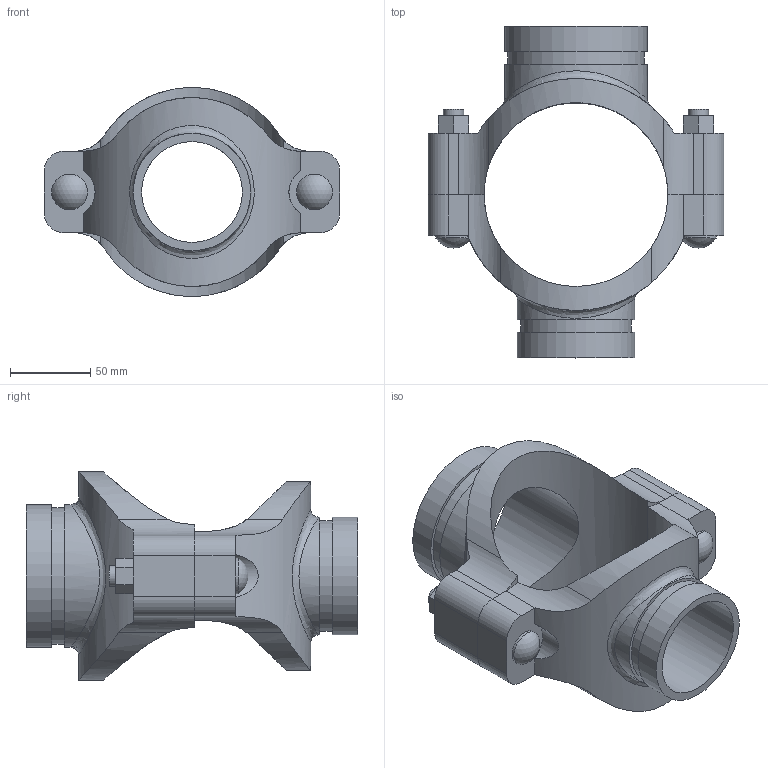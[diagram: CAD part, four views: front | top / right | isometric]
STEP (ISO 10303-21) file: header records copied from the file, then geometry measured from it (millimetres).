
FILE_DESCRIPTION(/* description */ ('VIC MECH-T BRANCH OUTLET CROSS STYLE 920N (GRVD)','CAx-IF Rec.Pracs.---Representation and Presentation of Product Manufacturing Information (PMI)---4.0---2014-10-13'),/* implementation_level */ '2;1');
FILE_NAME(/* name */ 'C:\Users\Vjadhav\AppData\Roaming\Autodesk\ApplicationPlugins\Back Up\Victaulic_IPS_Mechanical-Cross Outlet_Style 920N (OGS)\Victaulic_IPS_Mechanical-Cross Outlet_04.0x03.0x02.5 (100x80x65).stp',/* time_stamp */ '2020-08-06T19:44:01+05:00',/* author */ ('Vjadhav'),/* organization */ ('Victaulic'),/* preprocessor_version */ 'ST-DEVELOPER v17.2',/* originating_system */ 'Autodesk Inventor 2019',/* authorisation */ '');
FILE_SCHEMA (('AP242_MANAGED_MODEL_BASED_3D_ENGINEERING_MIM_LF { 1 0 10303 442 1 1 4 }'));
Length unit declared in the file: inch
Products named in the file (3): 920NG-04.0x03.0x02.5; 920G-04.0x03.0; 920G-04.0x02.5
Assembly tree (2 placements, depth 2):
  920NG-04.0x03.0x02.5
    920G-04.0x03.0
    920G-04.0x02.5
Bounding box: 184.15 x 206.5 x 129.9 mm (x, y, z)
Volume: 618248.5 mm3; surface area: 141887.6 mm2
Topology: 2 solids, 2 shells, 106 faces, 268 edges, 182 vertices
Faces by surface type: plane 54, cylinder 48, sphere 2, bspline 2
Full cylindrical faces by diameter (mm): 12.7 x4, 22.225 x2, 62.738 x1, 69.088 x1, 73.025 x2, 77.787 x1, 84.938 x1, 88.9 x2
Entity records: 4338 total; most frequent: CARTESIAN_POINT 1511, DIRECTION 542, ORIENTED_EDGE 536, EDGE_CURVE 268, AXIS2_PLACEMENT_3D 197, VERTEX_POINT 182, LINE 148, VECTOR 148
